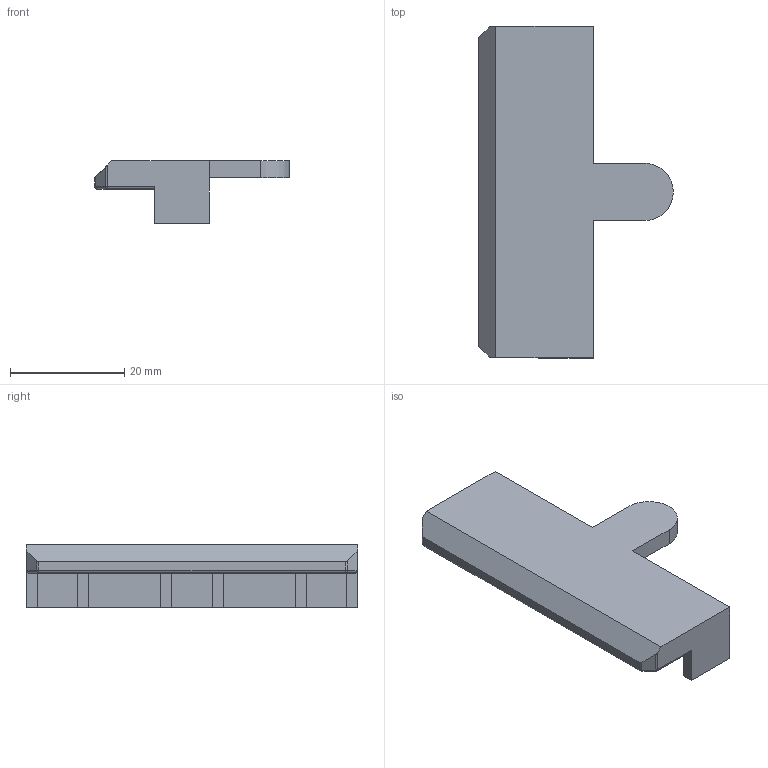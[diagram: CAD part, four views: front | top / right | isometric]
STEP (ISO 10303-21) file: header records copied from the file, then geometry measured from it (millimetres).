
FILE_DESCRIPTION((''),'2;1');
FILE_NAME('K-BOT2507004_1_1_1_1_1_3_1','2025-07-13T10:41:01',('Administrator'),(''),'CREO PARAMETRIC BY PTC INC, 2022073','CREO PARAMETRIC BY PTC INC, 2022073','');
FILE_SCHEMA(('CONFIG_CONTROL_DESIGN'));
Length unit declared in the file: millimetre
Products named in the file (1): K-BOT2507004_1_1_1_1_1_3_1
Bounding box: 34 x 58 x 11 mm (x, y, z)
Volume: 7148 mm3; surface area: 4549.4 mm2
Topology: 1 solids, 1 shells, 48 faces, 132 edges, 82 vertices
Faces by surface type: plane 34, cylinder 10, sphere 4
Entity records: 1508 total; most frequent: CARTESIAN_POINT 266, ORIENTED_EDGE 256, DIRECTION 238, EDGE_CURVE 128, VECTOR 106, LINE 106, VERTEX_POINT 82, AXIS2_PLACEMENT_3D 66
